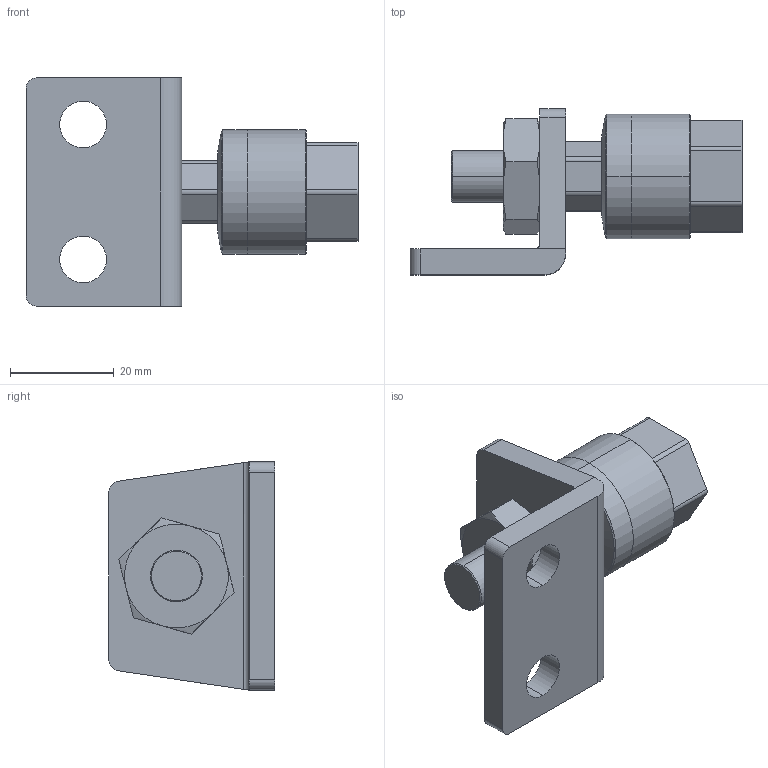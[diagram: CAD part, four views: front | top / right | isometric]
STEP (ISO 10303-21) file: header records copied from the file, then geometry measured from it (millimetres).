
FILE_DESCRIPTION (( 'STEP AP203' ), '1' );
FILE_NAME ('FCM10-1.5-L.STEP', '2016-04-14T01:53:51', ( '' ), ( '' ), 'SwSTEP 2.0', 'SolidWorks 2014', '' );
FILE_SCHEMA (( 'CONFIG_CONTROL_DESIGN' ));
Length unit declared in the file: millimetre
Products named in the file (4): FCM10-1.5; FCM10-1.5-L; M10x1.5-7mm(20); FCM10-L
Assembly tree (3 placements, depth 2):
  FCM10-1.5-L
    FCM10-1.5
    M10x1.5-7mm(20)
    FCM10-L
Bounding box: 64 x 32 x 44 mm (x, y, z)
Volume: 25242.5 mm3; surface area: 11055.2 mm2
Topology: 3 solids, 3 shells, 91 faces, 220 edges, 137 vertices
Faces by surface type: plane 35, cylinder 34, torus 12, cone 10
Entity records: 3146 total; most frequent: CARTESIAN_POINT 586, DIRECTION 470, ORIENTED_EDGE 436, EDGE_CURVE 218, AXIS2_PLACEMENT_3D 181, VERTEX_POINT 137, LINE 108, VECTOR 108
